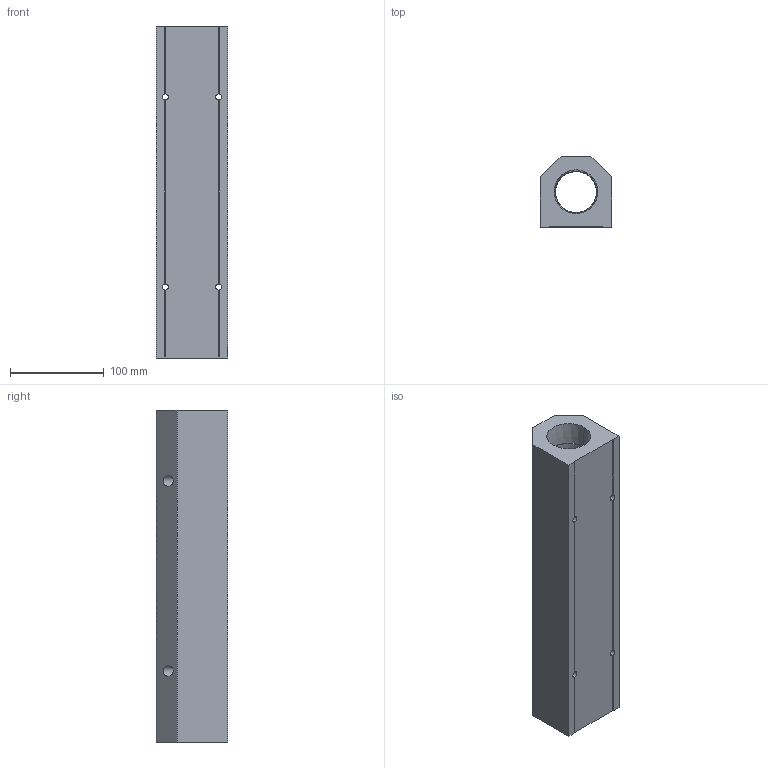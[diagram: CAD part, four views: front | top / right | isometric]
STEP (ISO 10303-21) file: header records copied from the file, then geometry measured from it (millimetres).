
FILE_DESCRIPTION (( 'STEP AP214' ), '1' );
FILE_NAME ('ALM6C-N8N24-355B.step', '2022-02-07T09:29:22', ( '' ), ( '' ), 'SwSTEP 2.0', 'SolidWorks 2020', '' );
FILE_SCHEMA (( 'AUTOMOTIVE_DESIGN' ));
Length unit declared in the file: millimetre
Products named in the file (1): ALM6C-N8N24-355B
Bounding box: 76.2 x 76.2 x 355 mm (x, y, z)
Volume: 1288721.9 mm3; surface area: 163882.9 mm2
Topology: 1 solids, 1 shells, 304 faces, 805 edges, 534 vertices
Faces by surface type: plane 187, bspline 83, cylinder 18, cone 16
Entity records: 17641 total; most frequent: CARTESIAN_POINT 7791, ORIENTED_EDGE 1610, DIRECTION 1103, EDGE_CURVE 805, VECTOR 563, LINE 563, VERTEX_POINT 534, EDGE_LOOP 357
